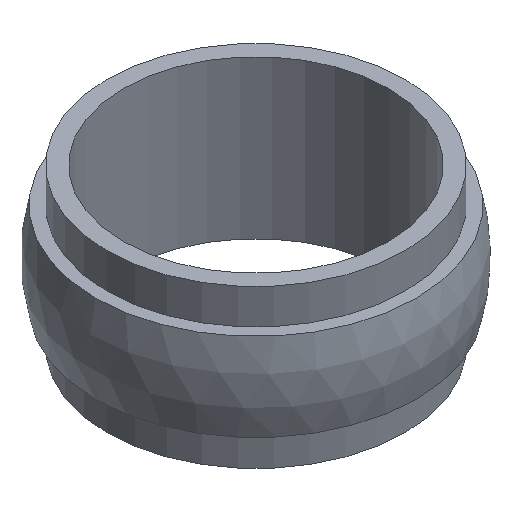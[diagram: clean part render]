
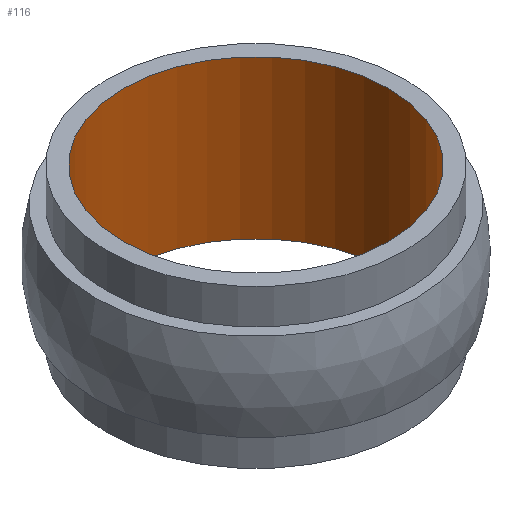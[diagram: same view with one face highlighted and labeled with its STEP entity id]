
A CAD part, isometric view. The second image highlights one B-rep face of the part: STEP entity #116.
In plain terms, the highlighted cylindrical face has radius 15.15 mm (diameter 30.3 mm), a full revolution.
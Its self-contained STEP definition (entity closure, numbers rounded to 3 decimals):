
#77 = EDGE_CURVE('',#78,#78,#80,.T.);
#78 = VERTEX_POINT('',#79);
#79 = CARTESIAN_POINT('',(34.15,19.,18.));
#80 = CIRCLE('',#81,15.15);
#81 = AXIS2_PLACEMENT_3D('',#82,#83,#84);
#82 = CARTESIAN_POINT('',(19.,19.,18.));
#83 = DIRECTION('',(0.,0.,1.));
#84 = DIRECTION('',(1.,0.,0.));
#116 = ADVANCED_FACE('',(#117),#136,.F.);
#117 = FACE_BOUND('',#118,.F.);
#118 = EDGE_LOOP('',(#119,#120,#128,#135));
#119 = ORIENTED_EDGE('',*,*,#77,.F.);
#120 = ORIENTED_EDGE('',*,*,#121,.F.);
#121 = EDGE_CURVE('',#122,#78,#124,.T.);
#122 = VERTEX_POINT('',#123);
#123 = CARTESIAN_POINT('',(34.15,19.,0.));
#124 = LINE('',#125,#126);
#125 = CARTESIAN_POINT('',(34.15,19.,-1.));
#126 = VECTOR('',#127,1.);
#127 = DIRECTION('',(0.,0.,1.));
#128 = ORIENTED_EDGE('',*,*,#129,.T.);
#129 = EDGE_CURVE('',#122,#122,#130,.T.);
#130 = CIRCLE('',#131,15.15);
#131 = AXIS2_PLACEMENT_3D('',#132,#133,#134);
#132 = CARTESIAN_POINT('',(19.,19.,0.));
#133 = DIRECTION('',(0.,0.,1.));
#134 = DIRECTION('',(1.,0.,0.));
#135 = ORIENTED_EDGE('',*,*,#121,.T.);
#136 = CYLINDRICAL_SURFACE('',#137,15.15);
#137 = AXIS2_PLACEMENT_3D('',#138,#139,#140);
#138 = CARTESIAN_POINT('',(19.,19.,-1.));
#139 = DIRECTION('',(0.,0.,1.));
#140 = DIRECTION('',(1.,0.,0.));
